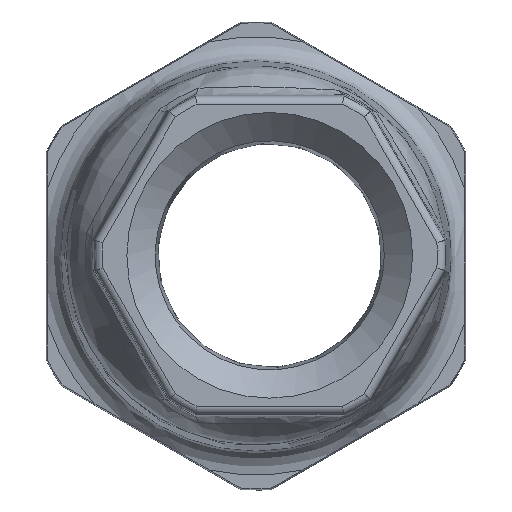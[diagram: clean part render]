
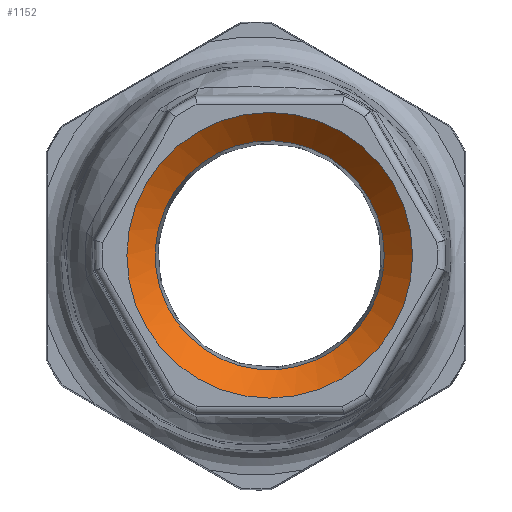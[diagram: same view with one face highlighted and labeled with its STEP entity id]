
A CAD part, top view. The second image highlights one B-rep face of the part: STEP entity #1152.
In plain terms, the highlighted conical face has half-angle 45.9 degrees and reference radius 15.947 mm.
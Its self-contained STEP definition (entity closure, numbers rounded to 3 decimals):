
#1125=CARTESIAN_POINT('',(1.7,0.,48.301));
#1126=DIRECTION('',(0.,0.,1.0));
#1127=DIRECTION('',(-1.0,0.0,0.0));
#1128=AXIS2_PLACEMENT_3D('',#1125,#1126,#1127);
#1129=CONICAL_SURFACE('',#1128,15.947,45.9);
#1130=CARTESIAN_POINT('',(15.893,0.,46.602));
#1131=VERTEX_POINT('',#1130);
#1132=CARTESIAN_POINT('',(1.7,0.,46.602));
#1133=DIRECTION('',(0.0,0.0,-1.0));
#1134=DIRECTION('',(-1.0,0.0,0.0));
#1135=AXIS2_PLACEMENT_3D('',#1132,#1133,#1134);
#1136=CIRCLE('',#1135,14.193);
#1137=EDGE_CURVE('',#1131,#1131,#1136,.T.);
#1138=ORIENTED_EDGE('',*,*,#1137,.T.);
#1139=EDGE_LOOP('',(#1138));
#1140=FACE_OUTER_BOUND('',#1139,.T.);
#1141=CARTESIAN_POINT('',(19.4,0.,50.0));
#1142=VERTEX_POINT('',#1141);
#1143=CARTESIAN_POINT('',(1.7,0.,50.0));
#1144=DIRECTION('',(0.0,0.0,1.0));
#1145=DIRECTION('',(-1.0,0.0,0.0));
#1146=AXIS2_PLACEMENT_3D('',#1143,#1144,#1145);
#1147=CIRCLE('',#1146,17.7);
#1148=EDGE_CURVE('',#1142,#1142,#1147,.T.);
#1149=ORIENTED_EDGE('',*,*,#1148,.T.);
#1150=EDGE_LOOP('',(#1149));
#1151=FACE_BOUND('',#1150,.T.);
#1152=ADVANCED_FACE('',(#1140,#1151),#1129,.F.);
